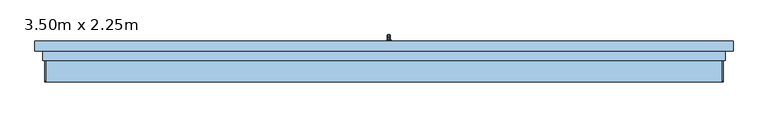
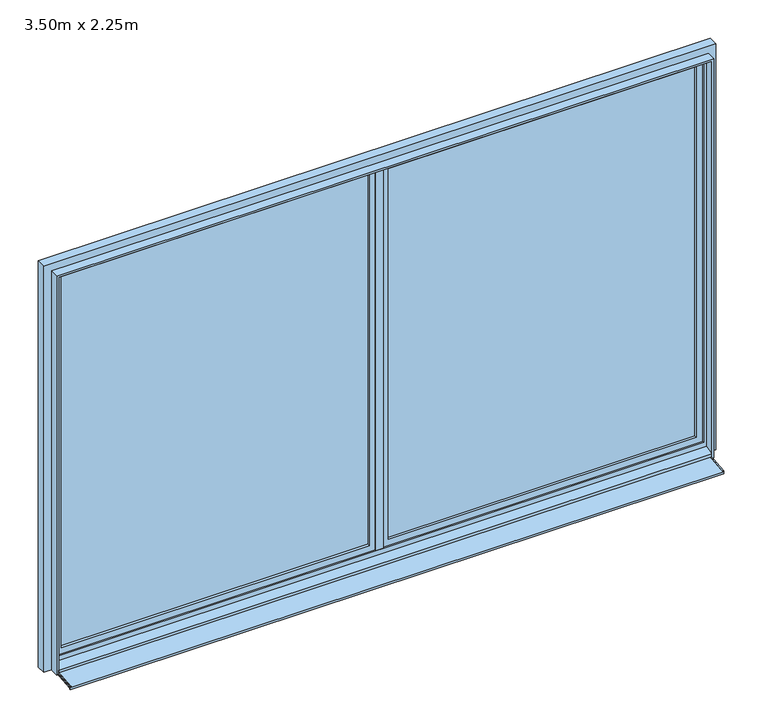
"""IFC4 building model written with IfcOpenShell, lengths in millimetres: window geometry, PF 2 Vantaux - Droits : 3.50m x 2.25m."""

import ifcopenshell
import ifcopenshell.guid

model = None  # the IFC model being written
_history = None  # IfcOwnerHistory: only IFC2X3 demands one
_inside = {}  # id of a spatial element -> (the spatial element, [elements in it])
_under = {}  # id of a project, library or spatial element -> (it, [spatial elements below it])
_declared = {}  # id of a project -> (the project, [libraries it declares])
_typed = {}  # id of a type object -> (the type object, [elements of that type])
_made_of = {}  # id of a material, layer set ... -> (it, [elements and type objects made of it])


def new_model(schema):
    """Start an empty IFC model of exactly this schema.

    Asked for "IFC4X3", IfcOpenShell would pick the latest addendum, in which some entities
    have other attributes; the version numbers below select the first issue.
    IFC2X3 requires an IfcOwnerHistory on every rooted entity: one is made here for all.
    """
    global model, _history
    if schema == "IFC4X3":
        model = ifcopenshell.file(schema_version=(4, 3, 0, 0))
    else:
        model = ifcopenshell.file(schema=schema)
    _inside.clear()
    _under.clear()
    _declared.clear()
    _typed.clear()
    _made_of.clear()
    _history = None
    if model.schema == "IFC2X3":
        org = make("IfcOrganization", Name="unknown")
        user = make(
            "IfcPersonAndOrganization",
            ThePerson=make("IfcPerson", FamilyName="unknown"),
            TheOrganization=org,
        )
        app = make(
            "IfcApplication",
            ApplicationDeveloper=org,
            Version="unknown",
            ApplicationFullName="unknown",
            ApplicationIdentifier="unknown",
        )
        _history = make(
            "IfcOwnerHistory",
            OwningUser=user,
            OwningApplication=app,
            ChangeAction="ADDED",
            CreationDate=0,
        )
    return model


def make(cls, **values):
    """One entity of the class cls with the attributes given. An attribute that is None is left unset."""
    return model.create_entity(
        cls, **{name: value for name, value in values.items() if value is not None}
    )


def rooted(cls, **values):
    """An entity with a GlobalId (a new one), such as an element, a storey or a relation."""
    return make(cls, GlobalId=ifcopenshell.guid.new(), OwnerHistory=_history, **values)


def si_unit(unit_type, name, prefix=None):
    """IfcSIUnit, for example si_unit("LENGTHUNIT", "METRE", prefix="MILLI")."""
    return make("IfcSIUnit", UnitType=unit_type, Prefix=prefix, Name=name)


def assignment(units):
    """IfcUnitAssignment: the units of a project."""
    return None if units is None else make("IfcUnitAssignment", Units=units)


def point(xyz):
    """IfcCartesianPoint."""
    return None if xyz is None else make("IfcCartesianPoint", Coordinates=xyz)


def direction(xyz):
    """IfcDirection."""
    return None if xyz is None else make("IfcDirection", DirectionRatios=xyz)


def frame(location, z_axis=None, x_axis=None):
    """IfcAxis2Placement3D, a coordinate frame: its origin and axes. An axis left out is left unset."""
    return make(
        "IfcAxis2Placement3D",
        Location=point(location),
        Axis=direction(z_axis),
        RefDirection=direction(x_axis),
    )


def frame_2d(location, x_axis=None):
    """IfcAxis2Placement2D, a coordinate frame in the plane: its origin and x axis."""
    return make(
        "IfcAxis2Placement2D", Location=point(location), RefDirection=direction(x_axis)
    )


def origin():
    """The frame at (0, 0, 0) with its axes left unset."""
    return frame((0.0, 0.0, 0.0))


def place(relative_to, where):
    """IfcLocalPlacement: puts the frame where relative to a parent placement (None: the world)."""
    return make(
        "IfcLocalPlacement", PlacementRelTo=relative_to, RelativePlacement=where
    )


def context(
    kind, dimensions, precision=None, world=None, true_north=None, identifier=None
):
    """IfcGeometricRepresentationContext, for example the 3D "Model" context."""
    return make(
        "IfcGeometricRepresentationContext",
        ContextIdentifier=identifier,
        ContextType=kind,
        CoordinateSpaceDimension=dimensions,
        Precision=precision,
        WorldCoordinateSystem=world,
        TrueNorth=true_north,
    )


def project(units=None, contexts=None):
    """IfcProject with its units and contexts."""
    return rooted(
        "IfcProject",
        Name="project",
        RepresentationContexts=contexts,
        UnitsInContext=assignment(units),
    )


def spatial(cls, under=None, at=None, **own):
    """A site, building, storey or space (cls), placed at a placement, below another one or the project."""
    s = rooted(cls, ObjectPlacement=at, **own)
    if under is not None:
        _under.setdefault(under.id(), (under, []))[1].append(s)
    return s


def polyline(points):
    """IfcPolyline through the points."""
    return make("IfcPolyline", Points=[point(p) for p in points])


def circle_curve(where, radius):
    """IfcCircle in the frame where."""
    return make("IfcCircle", Position=where, Radius=radius)


def trimmed(basis, trim1, trim2, sense, master):
    """IfcTrimmedCurve: the piece of a basis curve between two trims."""
    return make(
        "IfcTrimmedCurve",
        BasisCurve=basis,
        Trim1=trim1,
        Trim2=trim2,
        SenseAgreement=sense,
        MasterRepresentation=master,
    )


def segment(curve, same_sense, transition):
    """IfcCompositeCurveSegment."""
    return make(
        "IfcCompositeCurveSegment",
        Transition=transition,
        SameSense=same_sense,
        ParentCurve=curve,
    )


def composite_curve(segments, self_intersect=None):
    """IfcCompositeCurve: segments joined end to end."""
    return make("IfcCompositeCurve", Segments=segments, SelfIntersect=self_intersect)


def outline(outer, holes=None, kind="AREA"):
    """IfcArbitraryClosedProfileDef: a profile drawn as a closed curve; with holes, ...WithVoids."""
    if holes is None:
        return make("IfcArbitraryClosedProfileDef", ProfileType=kind, OuterCurve=outer)
    return make(
        "IfcArbitraryProfileDefWithVoids",
        ProfileType=kind,
        OuterCurve=outer,
        InnerCurves=holes,
    )


def extrude(swept, where, along, depth):
    """IfcExtrudedAreaSolid: the profile swept, set in the frame where, extruded along a direction by depth."""
    return make(
        "IfcExtrudedAreaSolid",
        SweptArea=swept,
        Position=where,
        ExtrudedDirection=direction(along),
        Depth=depth,
    )


def faces_of(points, faces, orient=None, outer=None):
    """IfcFace entities. A face is a list of loops; a loop is a list of indices into points, from 0.

    orient and outer hold one flag for each loop. By default every Orientation is true, the
    first loop of a face is its IfcFaceOuterBound and the others are IfcFaceBound.
    """
    made = []
    for i, loops in enumerate(faces):
        bounds = []
        for j, loop in enumerate(loops):
            is_outer = j == 0 if outer is None else outer[i][j]
            bounds.append(
                make(
                    "IfcFaceOuterBound" if is_outer else "IfcFaceBound",
                    Bound=make("IfcPolyLoop", Polygon=[points[k] for k in loop]),
                    Orientation=True if orient is None else orient[i][j],
                )
            )
        made.append(make("IfcFace", Bounds=bounds))
    return made


def faceted_brep(points, faces, orient=None, outer=None, voids=None):
    """IfcFacetedBrep: a solid bounded by flat faces; with voids (closed shells), ...WithVoids."""
    shared = [point(p) for p in points]
    hull = make("IfcClosedShell", CfsFaces=faces_of(shared, faces, orient, outer))
    if voids is None:
        return make("IfcFacetedBrep", Outer=hull)
    return make(
        "IfcFacetedBrepWithVoids",
        Outer=hull,
        Voids=[
            make(cls, CfsFaces=faces_of(shared, fs, o, b)) for cls, fs, o, b in voids
        ],
    )


def shape(context_of_items, identifier, shape_type, items):
    """IfcShapeRepresentation: the items that make up one representation, for example the "Body"."""
    return make(
        "IfcShapeRepresentation",
        ContextOfItems=context_of_items,
        RepresentationIdentifier=identifier,
        RepresentationType=shape_type,
        Items=items,
    )


def source(mapping_origin, context_of_items, identifier, shape_type, items):
    """IfcRepresentationMap: a shape defined once, which mapped items show again and again."""
    return make(
        "IfcRepresentationMap",
        MappingOrigin=mapping_origin,
        MappedRepresentation=shape(context_of_items, identifier, shape_type, items),
    )


def transform(
    local_origin,
    x_axis=None,
    y_axis=None,
    z_axis=None,
    scale=None,
    scale2=None,
    scale3=None,
    uniform=True,
):
    """IfcCartesianTransformationOperator3D, or its non-uniform kind. x_axis, y_axis, z_axis: its Axis1, 2, 3."""
    if uniform:
        return make(
            "IfcCartesianTransformationOperator3D",
            Axis1=direction(x_axis),
            Axis2=direction(y_axis),
            LocalOrigin=point(local_origin),
            Scale=scale,
            Axis3=direction(z_axis),
        )
    return make(
        "IfcCartesianTransformationOperator3DnonUniform",
        Axis1=direction(x_axis),
        Axis2=direction(y_axis),
        LocalOrigin=point(local_origin),
        Scale=scale,
        Axis3=direction(z_axis),
        Scale2=scale2,
        Scale3=scale3,
    )


def mapped(mapping_source, mapping_target):
    """IfcMappedItem: shows the shape of a source again, moved by a transform."""
    return make(
        "IfcMappedItem", MappingSource=mapping_source, MappingTarget=mapping_target
    )


def made_of(thing, what):
    """Note that an element or type object is made of a material, layer set ...; save() writes the relation."""
    if what is not None:
        _made_of.setdefault(what.id(), (what, []))[1].append(thing)
    return thing


def element(
    cls,
    number,
    at=None,
    inside=None,
    cuts=None,
    type_object=None,
    material=None,
    context=None,
    identifier="Body",
    shape_type=None,
    held_by="IfcProductDefinitionShape",
    body=None,
    shapes=None,
    **own,
):
    """One element of the class cls, such as IfcWall. Its Tag is "e" and its number.

    at: its placement. inside: the storey or other place that contains it. cuts: it is an
    opening in that element (IfcRelVoidsElement). A single representation is given by context,
    identifier, shape_type and body (its items); several are given by shapes. held_by: the class
    of the entity that holds the representations. save() writes the other relations.
    """
    e = rooted(cls, Tag="e%d" % number, ObjectPlacement=at, **own)
    if body is not None:
        shapes = [shape(context, identifier, shape_type, body)]
    if shapes is not None:
        e.Representation = make(held_by, Representations=shapes)
    if inside is not None:
        _inside.setdefault(inside.id(), (inside, []))[1].append(e)
    if cuts is not None:
        rooted(
            "IfcRelVoidsElement", RelatingBuildingElement=cuts, RelatedOpeningElement=e
        )
    if type_object is not None:
        _typed.setdefault(type_object.id(), (type_object, []))[1].append(e)
    return made_of(e, material)


def aggregate(whole, parts):
    """IfcRelAggregates: a whole, such as a stair, and the parts it consists of."""
    return rooted("IfcRelAggregates", RelatingObject=whole, RelatedObjects=parts)


def save(model, path):
    """Write the relations noted so far, then the file.

    IfcRelAggregates (storeys below a building ...), IfcRelContainedInSpatialStructure (elements
    in a storey), IfcRelDefinesByType, IfcRelAssociatesMaterial and IfcRelDeclares: one each for
    every whole, place, type object, material and project.
    """
    for whole, parts in _under.values():
        aggregate(whole, parts)
    for where, things in _inside.values():
        rooted(
            "IfcRelContainedInSpatialStructure",
            RelatedElements=things,
            RelatingStructure=where,
        )
    for kind, things in _typed.values():
        rooted("IfcRelDefinesByType", RelatedObjects=things, RelatingType=kind)
    for what, things in _made_of.values():
        rooted("IfcRelAssociatesMaterial", RelatedObjects=things, RelatingMaterial=what)
    for by, libraries in _declared.values():
        rooted("IfcRelDeclares", RelatingContext=by, RelatedDefinitions=libraries)
    model.write(path)


def window_3_50m_x_2_25m_79f3c7aa(model_context):
    return source(origin(), model_context, "Body", "SolidModel", [
        faceted_brep([(30.6460097, 106.0, 1122.0339292), (19.3539903, 106.0, 1122.0339292), (17.9660708, 106.0, 1120.6460097), (17.9660708, 106.0, 1109.3323012), (19.3323012, 106.0, 1107.9660708), (30.6676988, 106.0, 1107.9660708), (32.0339292, 106.0, 1109.3323012), (32.0339292, 106.0, 1120.6460097), (32.0339292, 118.3386538, 1120.6460097), (30.6460097, 118.9135489, 1122.0339292), (32.0339292, 113.6523623, 1109.3323012), (32.0339292, 120.3323012, 1102.6523623), (32.0339292, 120.3323012, 1020.0), (32.0339292, 131.6460097, 1020.0), (32.0339292, 131.6460097, 1107.3386538), (30.6676988, 113.0864511, 1107.9660708), (19.3323012, 113.0864511, 1107.9660708), (17.9660708, 113.6523623, 1109.3323012), (17.9660708, 118.3386538, 1120.6460097), (17.9660708, 131.6460097, 1107.3386538), (17.9660708, 131.6460097, 1020.0), (17.9660708, 120.3323012, 1020.0), (17.9660708, 120.3323012, 1102.6523623), (19.3539903, 118.9135489, 1122.0339292), (30.6460097, 133.0339292, 1107.9135489), (30.6676988, 118.9660708, 1102.0864511), (19.3323012, 118.9660708, 1102.0864511), (19.3539903, 133.0339292, 1107.9135489), (30.6460097, 133.0339292, 1020.0), (30.6676988, 118.9660708, 1020.0), (19.3323012, 118.9660708, 1020.0), (19.3539903, 133.0339292, 1020.0)], [[[0, 1, 2, 3, 4, 5, 6, 7]], [[7, 8, 9, 0]], [[6, 10, 11, 12, 13, 14, 8, 7]], [[5, 15, 10, 6]], [[4, 16, 15, 5]], [[3, 17, 16, 4]], [[2, 18, 19, 20, 21, 22, 17, 3]], [[1, 23, 18, 2]], [[0, 9, 23, 1]], [[8, 14, 24, 9]], [[15, 25, 11, 10]], [[16, 26, 25, 15]], [[17, 22, 26, 16]], [[23, 27, 19, 18]], [[9, 24, 27, 23]], [[28, 13, 12, 29, 30, 21, 20, 31]], [[14, 13, 28, 24]], [[25, 29, 12, 11]], [[26, 30, 29, 25]], [[22, 21, 30, 26]], [[27, 31, 20, 19]], [[24, 28, 31, 27]]]),
        extrude(outline(polyline([(1140.0, 32.0), (1140.0, 18.0), (1135.0, 13.0), (1065.0, 13.0), (1060.0, 18.0), (1060.0, 32.0), (1065.0, 37.0), (1135.0, 37.0), (1140.0, 32.0)])), frame((0.0, 100.0, 0.0), z_axis=(0.0, 1.0, 0.0), x_axis=(0.0, 0.0, 1.0)), (0.0, 0.0, 1.0), 6.0),
        extrude(outline(polyline([(-110.0288776, 26.588626), (15.0, 39.7296906), (15.0, 50.0), (20.0, 50.0), (20.0, 35.0), (-105.0288776, 21.8589354), (-105.0288776, 16.0359447), (-110.0288776, 15.5104235), (-110.0288776, 26.588626)])), frame((-1750.0, 0.0, 0.0), z_axis=(1.0, 0.0, 0.0), x_axis=(0.0, 1.0, 0.0)), (0.0, 0.0, 1.0), 3500.0),
        extrude(outline(composite_curve([segment(polyline([(-110.0288776, 26.588626), (-110.0288776, 28.0145512)]), True, "CONTINUOUS"), segment(trimmed(circle_curve(frame_2d((-106.0288776, 28.0145512)), 4.0), [point((-110.0288776, 28.0145512))], [point((-106.4469915, 31.9926388))], False, "CARTESIAN"), True, "CONTINUOUS"), segment(polyline([(-106.4469915, 31.9926388), (15.0, 44.757232), (15.0, 39.7296906), (-110.0288776, 26.588626)]), True, "CONTINUOUS")], self_intersect=False)), frame((-1750.0, 0.0, 0.0), z_axis=(1.0, 0.0, 0.0), x_axis=(0.0, 1.0, 0.0)), (0.0, 0.0, 1.0), 5.0),
        extrude(outline(composite_curve([segment(polyline([(-110.0288776, 26.588626), (-110.0288776, 28.0145512)]), True, "CONTINUOUS"), segment(trimmed(circle_curve(frame_2d((-106.0288776, 28.0145512)), 4.0), [point((-110.0288776, 28.0145512))], [point((-106.4469915, 31.9926388))], False, "CARTESIAN"), True, "CONTINUOUS"), segment(polyline([(-106.4469915, 31.9926388), (15.0, 44.757232), (15.0, 39.7296906), (-110.0288776, 26.588626)]), True, "CONTINUOUS")], self_intersect=False)), frame((1745.0, 0.0, 0.0), z_axis=(1.0, 0.0, 0.0), x_axis=(0.0, 1.0, 0.0)), (0.0, 0.0, 1.0), 5.0),
        extrude(outline(polyline([(85.0, -1750.0), (85.0, 0.0), (2285.0, 0.0), (2285.0, -1750.0), (85.0, -1750.0)]), holes=[polyline([(135.0, -50.0), (135.0, -1700.0), (2235.0, -1700.0), (2235.0, -50.0), (135.0, -50.0)])]), frame((0.0, 60.0, 0.0), z_axis=(0.0, 1.0, 0.0), x_axis=(0.0, 0.0, 1.0)), (0.0, 0.0, 1.0), 40.0),
        extrude(outline(polyline([(50.0, 74.0), (50.0, 86.0), (1700.0, 86.0), (1700.0, 74.0), (50.0, 74.0)])), frame((0.0, 0.0, 135.0), z_axis=(0.0, 0.0, 1.0), x_axis=(1.0, 0.0, 0.0)), (0.0, 0.0, 1.0), 2100.0),
        extrude(outline(polyline([(-1700.0, 74.0), (-1700.0, 86.0), (-50.0, 86.0), (-50.0, 74.0), (-1700.0, 74.0)])), frame((0.0, 0.0, 135.0), z_axis=(0.0, 0.0, 1.0), x_axis=(1.0, 0.0, 0.0)), (0.0, 0.0, 1.0), 2100.0),
        extrude(outline(polyline([(85.0, 0.0), (85.0, 1750.0), (2285.0, 1750.0), (2285.0, 0.0), (85.0, 0.0)]), holes=[polyline([(135.0, 1700.0), (135.0, 50.0), (2235.0, 50.0), (2235.0, 1700.0), (135.0, 1700.0)])]), frame((0.0, 60.0, 0.0), z_axis=(0.0, 1.0, 0.0), x_axis=(0.0, 0.0, 1.0)), (0.0, 0.0, 1.0), 40.0),
        extrude(outline(polyline([(35.0, -1750.0), (2285.0, -1750.0), (2285.0, 1750.0), (35.0, 1750.0), (35.0, 1760.0), (2295.0, 1760.0), (2295.0, -1760.0), (35.0, -1760.0), (35.0, -1750.0)])), frame((0.0, 0.0, 0.0), z_axis=(0.0, 1.0, 0.0), x_axis=(0.0, 0.0, 1.0)), (0.0, 0.0, 1.0), 50.0),
        faceted_brep([(-1800.0, 100.0, 35.0), (1800.0, 100.0, 35.0), (1800.0, 50.0, 35.0), (1750.0, 50.0, 35.0), (1750.0, 20.0, 35.0), (-1750.0, 20.0, 35.0), (-1750.0, 50.0, 35.0), (-1800.0, 50.0, 35.0), (-1800.0, 50.0, 2335.0), (-1800.0, 100.0, 2335.0), (-1750.0, 50.0, 74.3761425), (1750.0, 50.0, 74.3761425), (1800.0, 50.0, 2335.0), (-1735.0, 50.0, 2270.0), (1735.0, 50.0, 2270.0), (1735.0, 50.0, 100.0), (-1735.0, 50.0, 100.0), (-1750.0, 20.0, 50.0), (-1750.0, 10.0, 50.0), (-1750.0, 10.0, 45.0), (-1750.0, 0.0, 45.0), (-1750.0, 0.0, 60.9786829), (1750.0, 20.0, 50.0), (1750.0, 0.0, 60.9786829), (1750.0, 0.0, 45.0), (1750.0, 10.0, 45.0), (1750.0, 10.0, 50.0), (1800.0, 100.0, 2335.0), (1750.0, 100.0, 2285.0), (-1750.0, 100.0, 2285.0), (-1750.0, 100.0, 85.0), (1750.0, 100.0, 85.0), (-1735.0, 60.0, 100.0), (-1735.0, 60.0, 2270.0), (1735.0, 60.0, 100.0), (1735.0, 60.0, 2270.0), (1750.0, 60.0, 2285.0), (1750.0, 60.0, 85.0), (-1750.0, 60.0, 85.0), (-1750.0, 60.0, 2285.0)], [[[0, 1, 2, 3, 4, 5, 6, 7]], [[7, 8, 9, 0]], [[7, 6, 10, 11, 3, 2, 12, 8], [13, 14, 15, 16]], [[10, 6, 5, 17, 18, 19, 20, 21]], [[5, 4, 22, 17]], [[4, 3, 11, 23, 24, 25, 26, 22]], [[2, 1, 27, 12]], [[0, 9, 27, 1], [28, 29, 30, 31]], [[13, 16, 32, 33]], [[32, 16, 15, 34]], [[35, 34, 15, 14]], [[21, 23, 11, 10]], [[36, 37, 38, 39], [33, 32, 34, 35]], [[38, 30, 29, 39]], [[30, 38, 37, 31]], [[28, 31, 37, 36]], [[20, 24, 23, 21]], [[19, 25, 24, 20]], [[18, 26, 25, 19]], [[17, 22, 26, 18]], [[13, 33, 35, 14]], [[12, 27, 9, 8]], [[39, 29, 28, 36]]]),
        extrude(outline(polyline([(20.0, 52.0), (-20.0, 52.0), (-20.0, 60.0), (20.0, 60.0), (20.0, 52.0)])), frame((0.0, 0.0, 100.0), z_axis=(0.0, 0.0, 1.0), x_axis=(1.0, 0.0, 0.0)), (0.0, 0.0, 1.0), 2170.0),
    ])


if __name__ == "__main__":
    model = new_model("IFC4")
    model_context = context("Model", 3, world=origin())
    ifc_project = project(units=[si_unit("LENGTHUNIT", "METRE", prefix="MILLI")], contexts=[model_context])
    site = spatial("IfcSite", under=ifc_project)
    building = spatial("IfcBuilding", under=site)
    placement = place(None, origin())
    window_3_50m_x_2_25m_shape = window_3_50m_x_2_25m_79f3c7aa(model_context)
    element("IfcWindow", 1, ObjectType="PF 2 Vantaux - Droits : 3.50m x 2.25m", at=placement, inside=building, context=model_context, shape_type="MappedRepresentation", body=[
        mapped(window_3_50m_x_2_25m_shape, transform((0.0, 0.0, 0.0), x_axis=(1.0, 0.0, 0.0), y_axis=(0.0, 1.0, 0.0), z_axis=(0.0, 0.0, 1.0))),
    ])
    save(model, "model.ifc")
